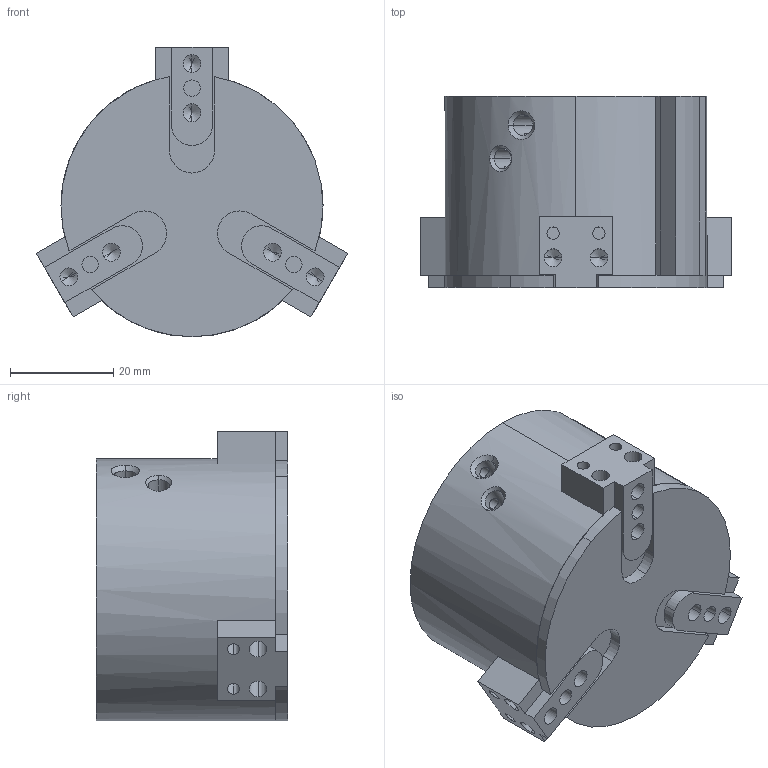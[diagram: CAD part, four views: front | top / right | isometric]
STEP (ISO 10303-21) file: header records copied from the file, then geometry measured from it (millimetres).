
FILE_DESCRIPTION (( 'STEP AP203' ), '1' );
FILE_NAME ('AGP-23 OPEN in MM.STEP', '2014-11-05T14:00:47', ( 'setup' ), ( '' ), 'SwSTEP 2.0', 'SolidWorks 2013', '' );
FILE_SCHEMA (( 'CONFIG_CONTROL_DESIGN' ));
Length unit declared in the file: millimetre
Products named in the file (4): AGP-23 JAW; AGP-23 OPEN in MM; AGP-23 BODY; AGP-23 CAP
Assembly tree (5 placements, depth 2):
  AGP-23 OPEN in MM
    AGP-23 BODY
    AGP-23 CAP
    AGP-23 JAW  x3
Bounding box: 60.34 x 37.03 x 56.13 mm (x, y, z)
Volume: 69392 mm3; surface area: 23521.6 mm2
Topology: 5 solids, 5 shells, 204 faces, 504 edges, 303 vertices
Faces by surface type: cylinder 84, plane 78, cone 38, bspline 4
Entity records: 4681 total; most frequent: CARTESIAN_POINT 1216, DIRECTION 642, ORIENTED_EDGE 600, EDGE_CURVE 300, AXIS2_PLACEMENT_3D 230, VERTEX_POINT 195, LINE 182, VECTOR 182
